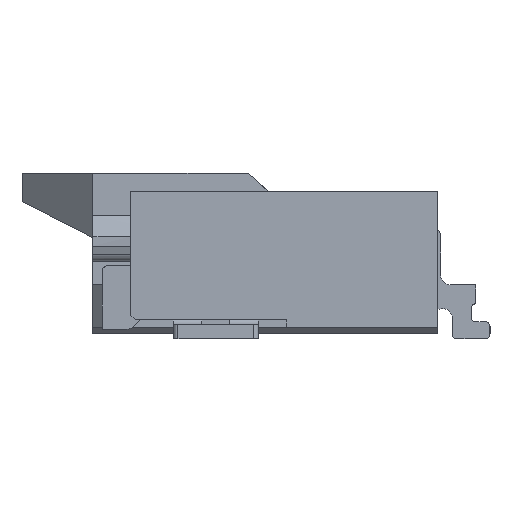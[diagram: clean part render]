
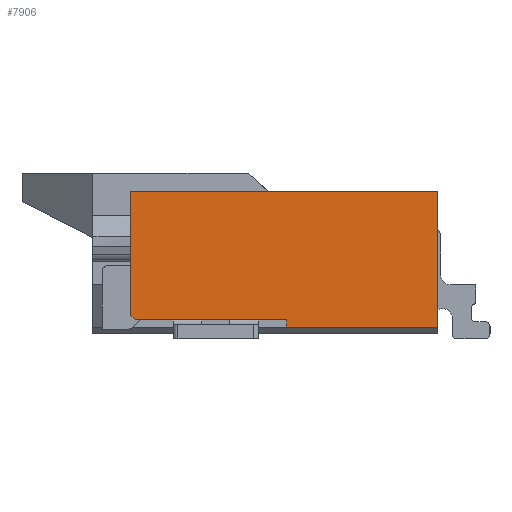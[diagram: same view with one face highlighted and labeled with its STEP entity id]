
A CAD part, left-side view. The second image highlights one B-rep face of the part: STEP entity #7906.
In plain terms, the highlighted planar face has unit normal (-1, 0, 0).
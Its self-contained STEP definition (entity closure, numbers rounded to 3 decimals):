
#31 = VERTEX_POINT ( 'NONE', #8508 ) ;
#405 = VERTEX_POINT ( 'NONE', #530 ) ;
#530 = CARTESIAN_POINT ( 'NONE',  ( 4.65, -0.4, 0.2 ) ) ;
#985 = DIRECTION ( 'NONE',  ( 0., 0.707, 0.707 ) ) ;
#1354 = ORIENTED_EDGE ( 'NONE', *, *, #10825, .F. ) ;
#1601 = EDGE_CURVE ( 'NONE', #17094, #31, #2163, .T. ) ;
#2163 = LINE ( 'NONE', #18214, #5086 ) ;
#2323 = DIRECTION ( 'NONE',  ( 0., 1., 0. ) ) ;
#2544 = CARTESIAN_POINT ( 'NONE',  ( 4.65, -3.65, 0.07 ) ) ;
#3663 = DIRECTION ( 'NONE',  ( 0., 1., 0. ) ) ;
#3944 = LINE ( 'NONE', #6263, #14205 ) ;
#5086 = VECTOR ( 'NONE', #3663, 1000. ) ;
#5864 = VERTEX_POINT ( 'NONE', #19049 ) ;
#6069 = ORIENTED_EDGE ( 'NONE', *, *, #21442, .F. ) ;
#6263 = CARTESIAN_POINT ( 'NONE',  ( 4.65, 0., 0.15 ) ) ;
#6555 = VECTOR ( 'NONE', #19093, 1000. ) ;
#6560 = CARTESIAN_POINT ( 'NONE',  ( 4.65, -0.45, 0.15 ) ) ;
#6710 = EDGE_LOOP ( 'NONE', ( #21178, #16507, #10338, #17186, #1354, #6069, #10586 ) ) ;
#7788 = LINE ( 'NONE', #9197, #21061 ) ;
#7906 = ADVANCED_FACE ( 'NONE', ( #16771 ), #7909, .T. ) ;
#7909 = PLANE ( 'NONE',  #8262 ) ;
#8050 = LINE ( 'NONE', #15389, #6555 ) ;
#8262 = AXIS2_PLACEMENT_3D ( 'NONE', #14902, #20593, #16655 ) ;
#8508 = CARTESIAN_POINT ( 'NONE',  ( 4.65, -2.05, 0.07 ) ) ;
#9197 = CARTESIAN_POINT ( 'NONE',  ( 4.65, -0.4, 0. ) ) ;
#9614 = DIRECTION ( 'NONE',  ( 0., 1., 0. ) ) ;
#10338 = ORIENTED_EDGE ( 'NONE', *, *, #20549, .T. ) ;
#10586 = ORIENTED_EDGE ( 'NONE', *, *, #18670, .F. ) ;
#10825 = EDGE_CURVE ( 'NONE', #5864, #405, #17045, .T. ) ;
#11365 = CARTESIAN_POINT ( 'NONE',  ( 4.65, -0.4, 1.51 ) ) ;
#11396 = DIRECTION ( 'NONE',  ( 0., 0., 1. ) ) ;
#11719 = VECTOR ( 'NONE', #985, 1000. ) ;
#13588 = LINE ( 'NONE', #11365, #15700 ) ;
#14205 = VECTOR ( 'NONE', #2323, 1000. ) ;
#14461 = EDGE_CURVE ( 'NONE', #17338, #17094, #8050, .T. ) ;
#14504 = CARTESIAN_POINT ( 'NONE',  ( 4.65, -3.65, 1.51 ) ) ;
#14638 = EDGE_CURVE ( 'NONE', #405, #21712, #7788, .T. ) ;
#14871 = VECTOR ( 'NONE', #18205, 1000. ) ;
#14902 = CARTESIAN_POINT ( 'NONE',  ( 4.65, 0., 0. ) ) ;
#15389 = CARTESIAN_POINT ( 'NONE',  ( 4.65, -3.65, 0. ) ) ;
#15700 = VECTOR ( 'NONE', #9614, 1000. ) ;
#15822 = CARTESIAN_POINT ( 'NONE',  ( 4.65, -0.4, 1.51 ) ) ;
#16507 = ORIENTED_EDGE ( 'NONE', *, *, #14461, .F. ) ;
#16655 = DIRECTION ( 'NONE',  ( 0., 1., 0. ) ) ;
#16771 = FACE_OUTER_BOUND ( 'NONE', #6710, .T. ) ;
#16927 = CARTESIAN_POINT ( 'NONE',  ( 4.65, -2.05, 0.15 ) ) ;
#17045 = LINE ( 'NONE', #6560, #11719 ) ;
#17094 = VERTEX_POINT ( 'NONE', #2544 ) ;
#17186 = ORIENTED_EDGE ( 'NONE', *, *, #14638, .F. ) ;
#17338 = VERTEX_POINT ( 'NONE', #14504 ) ;
#18205 = DIRECTION ( 'NONE',  ( 0., 0., 1. ) ) ;
#18214 = CARTESIAN_POINT ( 'NONE',  ( 4.65, 0., 0.07 ) ) ;
#18649 = CARTESIAN_POINT ( 'NONE',  ( 4.65, -2.05, 0.07 ) ) ;
#18670 = EDGE_CURVE ( 'NONE', #31, #18701, #20397, .T. ) ;
#18701 = VERTEX_POINT ( 'NONE', #16927 ) ;
#19049 = CARTESIAN_POINT ( 'NONE',  ( 4.65, -0.45, 0.15 ) ) ;
#19093 = DIRECTION ( 'NONE',  ( 0., 0., -1. ) ) ;
#20397 = LINE ( 'NONE', #18649, #14871 ) ;
#20549 = EDGE_CURVE ( 'NONE', #17338, #21712, #13588, .T. ) ;
#20593 = DIRECTION ( 'NONE',  ( -1., 0., 0. ) ) ;
#21061 = VECTOR ( 'NONE', #11396, 1000. ) ;
#21178 = ORIENTED_EDGE ( 'NONE', *, *, #1601, .F. ) ;
#21442 = EDGE_CURVE ( 'NONE', #18701, #5864, #3944, .T. ) ;
#21712 = VERTEX_POINT ( 'NONE', #15822 ) ;
